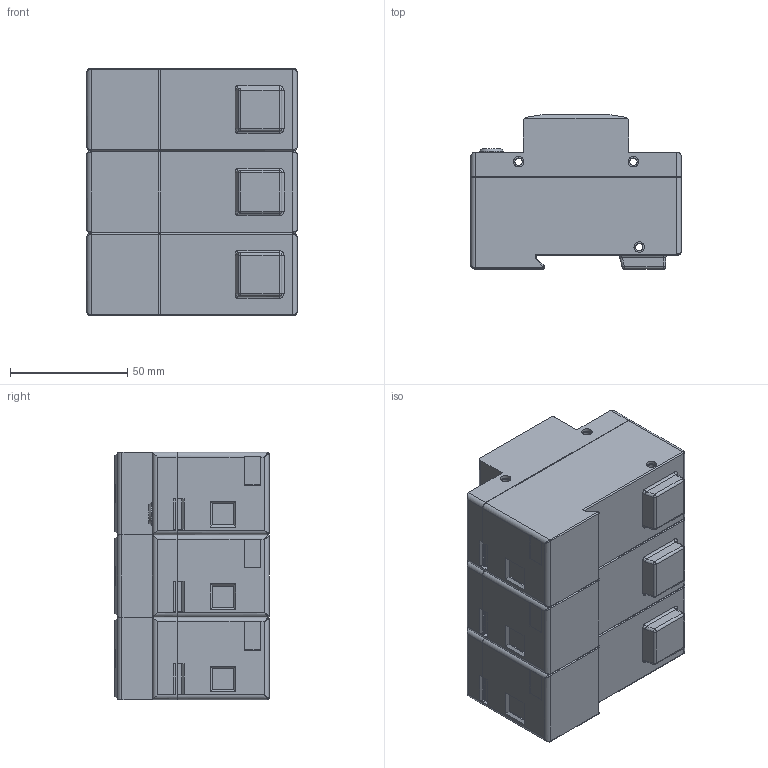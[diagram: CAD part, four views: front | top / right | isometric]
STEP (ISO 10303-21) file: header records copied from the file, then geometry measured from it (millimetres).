
FILE_DESCRIPTION(/* description */ (''),/* implementation_level */ '2;1');
FILE_NAME(/* name */ 'K:\PROJEKTY ROZPRACOVANÉ\MODELY DO KATALOGU\HLSA25, HLSA25G, HLA\3D - STEP\H25 3+0.stp',/* time_stamp */ '2020-03-24T07:20:43+01:00',/* author */ ('M Koliska'),/* organization */ (''),/* preprocessor_version */ 'ST-DEVELOPER v18',/* originating_system */ 'Autodesk Inventor 2020',/* authorisation */ '');
FILE_SCHEMA (('AUTOMOTIVE_DESIGN { 1 0 10303 214 3 1 1 }'));
Length unit declared in the file: millimetre
Products named in the file (6): HLSA25_3+0; HLSA25; HLSA25_1; HLSA25 (Z); HLSA25 (Z)_1; DIN 7985 (H) - M6x10-H
Assembly tree (10 placements, depth 3):
  HLSA25_3+0
    HLSA25  x2
      HLSA25_1
      DIN 7985 (H) - M6x10-H
    HLSA25 (Z)
      HLSA25 (Z)_1
      DIN 7985 (H) - M6x10-H  x2
Bounding box: 90 x 65.8 x 105.6 mm (x, y, z)
Volume: 512072.4 mm3; surface area: 75169.4 mm2
Topology: 11 solids, 11 shells, 961 faces, 2503 edges, 1617 vertices
Faces by surface type: plane 602, cylinder 172, cone 129, sphere 26, bspline 18, torus 14
Full cylindrical faces by diameter (mm): 3.2 x9, 4.5 x18, 5.5 x8, 6 x8, 7.5 x8, 10 x1
Entity records: 14685 total; most frequent: CARTESIAN_POINT 2867, DIRECTION 2421, ORIENTED_EDGE 2394, EDGE_CURVE 1197, LINE 885, VECTOR 885, AXIS2_PLACEMENT_3D 768, VERTEX_POINT 766
